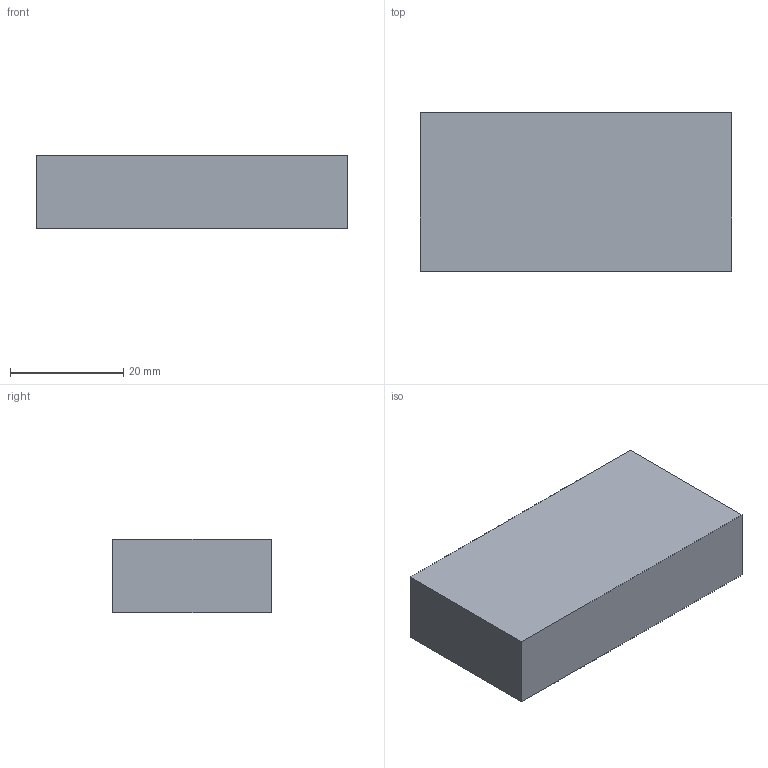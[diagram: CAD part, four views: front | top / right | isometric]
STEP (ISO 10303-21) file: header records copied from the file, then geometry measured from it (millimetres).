
FILE_DESCRIPTION(('Open CASCADE Model'),'2;1');
FILE_NAME('Open CASCADE Shape Model','2026-10-25T05:18:02',('Author'),( 'Open CASCADE'),'Open CASCADE STEP processor 7.9','Open CASCADE 7.9' ,'Unknown');
FILE_SCHEMA(('AUTOMOTIVE_DESIGN { 1 0 10303 214 1 1 1 1 }'));
Length unit declared in the file: millimetre
Products named in the file (1): Open CASCADE STEP translator 7.9 115
Bounding box: 55 x 28 x 13 mm (x, y, z)
Volume: 20020 mm3; surface area: 5238 mm2
Topology: 1 solids, 1 shells, 6 faces, 12 edges, 8 vertices
Faces by surface type: plane 6
Entity records: 322 total; most frequent: CARTESIAN_POINT 51, DIRECTION 50, LINE 36, VECTOR 36, ORIENTED_EDGE 24, PCURVE 24, DEFINITIONAL_REPRESENTATION 24, EDGE_CURVE 12
